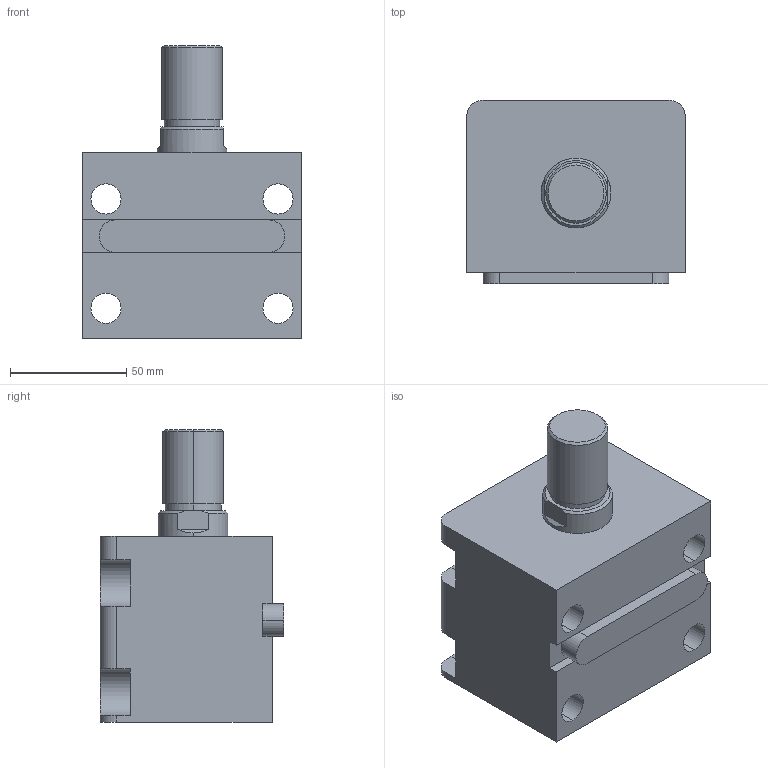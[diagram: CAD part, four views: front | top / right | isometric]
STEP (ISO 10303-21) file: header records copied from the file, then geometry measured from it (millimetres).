
FILE_DESCRIPTION (( 'STEP AP203' ), '1' );
FILE_NAME ('HTB-LA50-20W.STEP', '2019-10-09T07:07:42', ( '微软用户' ), ( '微软中国' ), 'SwSTEP 2.0', 'SolidWorks 2012', '' );
FILE_SCHEMA (( 'CONFIG_CONTROL_DESIGN' ));
Length unit declared in the file: millimetre
Products named in the file (4): HTB-LA50-瑩; HTB-LA50-20W; HTB-LA50-20掛极; HTB-LA50-20W活塞杆
Assembly tree (3 placements, depth 2):
  HTB-LA50-20W
    HTB-LA50-20掛极
    HTB-LA50-20W活塞杆
    HTB-LA50-瑩
Bounding box: 94 x 79 x 126 mm (x, y, z)
Volume: 507181.9 mm3; surface area: 83461.1 mm2
Topology: 3 solids, 3 shells, 90 faces, 219 edges, 144 vertices
Faces by surface type: plane 41, cylinder 37, cone 8, torus 4
Entity records: 3107 total; most frequent: DIRECTION 497, CARTESIAN_POINT 487, ORIENTED_EDGE 438, EDGE_CURVE 219, AXIS2_PLACEMENT_3D 190, VERTEX_POINT 144, LINE 117, VECTOR 117
